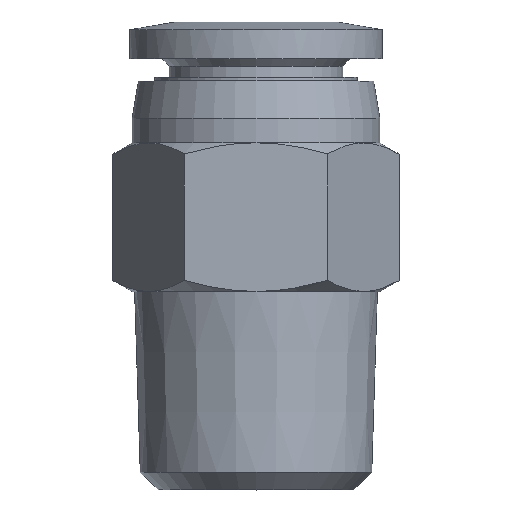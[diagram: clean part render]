
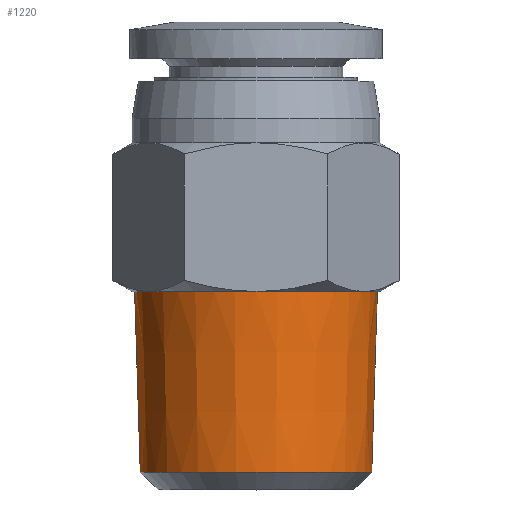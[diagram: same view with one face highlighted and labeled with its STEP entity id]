
A CAD part, top view. The second image highlights one B-rep face of the part: STEP entity #1220.
In plain terms, the highlighted conical face has half-angle 1.79 degrees and reference radius 4.786 mm.
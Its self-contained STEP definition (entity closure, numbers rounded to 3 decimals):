
#29 = EDGE_CURVE ( 'NONE', #283, #657, #1286, .T. ) ;
#35 = CARTESIAN_POINT ( 'NONE',  ( -4.9, 8., 0. ) ) ;
#70 = DIRECTION ( 'NONE',  ( -1., 0., 0. ) ) ;
#78 = CARTESIAN_POINT ( 'NONE',  ( 4.9, 8., 0. ) ) ;
#144 = EDGE_CURVE ( 'NONE', #702, #1386, #477, .T. ) ;
#211 = ORIENTED_EDGE ( 'NONE', *, *, #449, .F. ) ;
#273 = ORIENTED_EDGE ( 'NONE', *, *, #144, .F. ) ;
#283 = VERTEX_POINT ( 'NONE', #1562 ) ;
#291 = VECTOR ( 'NONE', #1702, 1000. ) ;
#343 = CIRCLE ( 'NONE', #1354, 4.672 ) ;
#430 = CIRCLE ( 'NONE', #1058, 4.9 ) ;
#449 = EDGE_CURVE ( 'NONE', #1386, #657, #430, .T. ) ;
#477 = LINE ( 'NONE', #486, #835 ) ;
#486 = CARTESIAN_POINT ( 'NONE',  ( -4.786, 4.35, 0. ) ) ;
#498 = DIRECTION ( 'NONE',  ( -1., 0., 0. ) ) ;
#555 = AXIS2_PLACEMENT_3D ( 'NONE', #887, #1338, #1365 ) ;
#629 = EDGE_CURVE ( 'NONE', #702, #283, #343, .T. ) ;
#635 = CONICAL_SURFACE ( 'NONE', #555, 4.786, 0.031 ) ;
#657 = VERTEX_POINT ( 'NONE', #78 ) ;
#663 = DIRECTION ( 'NONE',  ( 0., 1., 0. ) ) ;
#676 = ORIENTED_EDGE ( 'NONE', *, *, #29, .T. ) ;
#702 = VERTEX_POINT ( 'NONE', #1075 ) ;
#835 = VECTOR ( 'NONE', #1585, 1000. ) ;
#869 = DIRECTION ( 'NONE',  ( 0., 1., 0. ) ) ;
#877 = CARTESIAN_POINT ( 'NONE',  ( 0., 8., 0. ) ) ;
#887 = CARTESIAN_POINT ( 'NONE',  ( 0., 4.35, 0. ) ) ;
#1058 = AXIS2_PLACEMENT_3D ( 'NONE', #877, #869, #70 ) ;
#1075 = CARTESIAN_POINT ( 'NONE',  ( -4.672, 0.7, 0. ) ) ;
#1108 = ORIENTED_EDGE ( 'NONE', *, *, #629, .T. ) ;
#1129 = CARTESIAN_POINT ( 'NONE',  ( 4.786, 4.35, 0. ) ) ;
#1220 = ADVANCED_FACE ( 'NONE', ( #1489 ), #635, .T. ) ;
#1286 = LINE ( 'NONE', #1129, #291 ) ;
#1338 = DIRECTION ( 'NONE',  ( 0., 1., 0. ) ) ;
#1350 = CARTESIAN_POINT ( 'NONE',  ( 0., 0.7, 0. ) ) ;
#1354 = AXIS2_PLACEMENT_3D ( 'NONE', #1350, #663, #498 ) ;
#1365 = DIRECTION ( 'NONE',  ( -1., 0., 0. ) ) ;
#1386 = VERTEX_POINT ( 'NONE', #35 ) ;
#1489 = FACE_OUTER_BOUND ( 'NONE', #1705, .T. ) ;
#1562 = CARTESIAN_POINT ( 'NONE',  ( 4.672, 0.7, 0. ) ) ;
#1585 = DIRECTION ( 'NONE',  ( -0.031, 1., 0. ) ) ;
#1702 = DIRECTION ( 'NONE',  ( 0.031, 1., 0. ) ) ;
#1705 = EDGE_LOOP ( 'NONE', ( #1108, #676, #211, #273 ) ) ;
